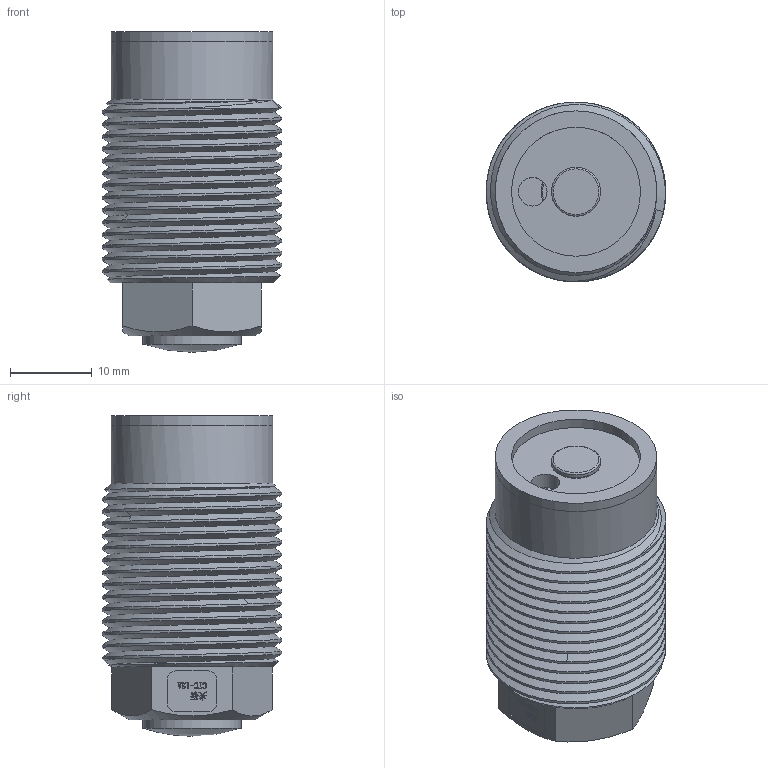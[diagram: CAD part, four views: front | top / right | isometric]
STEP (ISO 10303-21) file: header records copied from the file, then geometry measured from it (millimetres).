
FILE_DESCRIPTION(/* description */ (''),/* implementation_level */ '2;1');
FILE_NAME(/* name */ 'CTC-12A.stp',/* time_stamp */ '2022-04-28T10:59:04+08:00',/* author */ (''),/* organization */ (''),/* preprocessor_version */ 'ST-DEVELOPER v16.7',/* originating_system */ 'SIEMENS PLM Software NX 12.0',/* authorisation */ '');
FILE_SCHEMA (('AUTOMOTIVE_DESIGN { 1 0 10303 214 3 1 1 1 }'));
Length unit declared in the file: millimetre
Products named in the file (1): CTC-12A
Bounding box: 22 x 22 x 39.25 mm (x, y, z)
Volume: 10695.1 mm3; surface area: 9446.6 mm2
Topology: 5 solids, 5 shells, 268 faces, 699 edges, 463 vertices
Faces by surface type: plane 167, extrusion 50, cylinder 30, bspline 14, cone 4, torus 2, sphere 1
Full cylindrical faces by diameter (mm): 3.5 x1, 4 x2, 5 x1, 6 x1, 8.2 x1, 8.5 x8, 11 x1, 12 x1, 12.2 x1, 14.8 x1, 15.4 x1, 15.8 x1, 17 x2, 19.8 x2
Entity records: 15129 total; most frequent: CARTESIAN_POINT 7753, ORIENTED_EDGE 1288, DIRECTION 986, EDGE_CURVE 644, VECTOR 498, LINE 448, VERTEX_POINT 441, EDGE_LOOP 313
